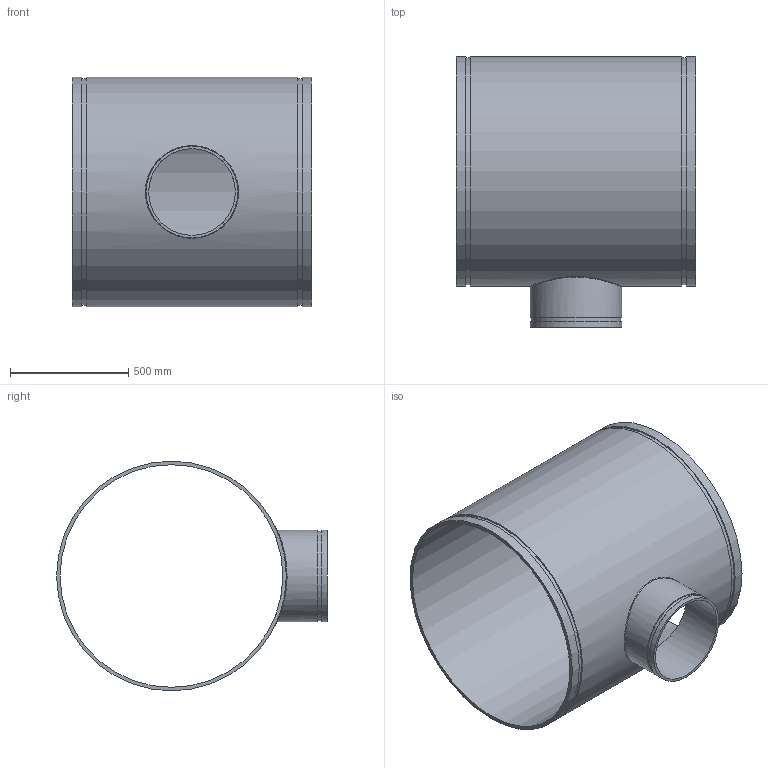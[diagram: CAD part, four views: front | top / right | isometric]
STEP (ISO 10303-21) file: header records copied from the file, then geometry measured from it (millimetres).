
FILE_DESCRIPTION(/* description */ ('VIC REDUCING TEE No 25-C','CAx-IF Rec.Pracs.---Representation and Presentation of Product Manufacturing Information (PMI)---4.0---2014-10-13'),/* implementation_level */ '2;1');
FILE_NAME(/* name */ 'C:\Users\Vjadhav\AppData\Roaming\Autodesk\ApplicationPlugins\Back Up\Victaulic_AWWA_Tee Reducing_No 25-C (DRG)\Victaulic_AWWA_Tee Reducing_No 25-C (DRG)_36.0x14.0 (900x350).stp',/* time_stamp */ '2020-08-18T18:19:34+06:00',/* author */ ('CORINNE GRAY'),/* organization */ ('Victaulic'),/* preprocessor_version */ 'ST-DEVELOPER v17.2',/* originating_system */ 'Autodesk Inventor 2019',/* authorisation */ '');
FILE_SCHEMA (('AP242_MANAGED_MODEL_BASED_3D_ENGINEERING_MIM_LF { 1 0 10303 442 1 1 4 }'));
Length unit declared in the file: inch
Products named in the file (1): 25C-36.0x14.0
Bounding box: 1016 x 1146.81 x 972.82 mm (x, y, z)
Volume: 45168581.5 mm3; surface area: 6540931.9 mm2
Topology: 1 solids, 1 shells, 20 faces, 44 edges, 33 vertices
Faces by surface type: cylinder 10, plane 9, bspline 1
Full cylindrical faces by diameter (mm): 367.284 x1, 380.213 x1, 388.62 x2, 943.356 x1, 961.39 x2, 972.82 x3
Entity records: 1040 total; most frequent: CARTESIAN_POINT 416, DIRECTION 135, ORIENTED_EDGE 90, AXIS2_PLACEMENT_3D 62, EDGE_CURVE 45, VERTEX_POINT 34, EDGE_LOOP 31, CIRCLE 29
